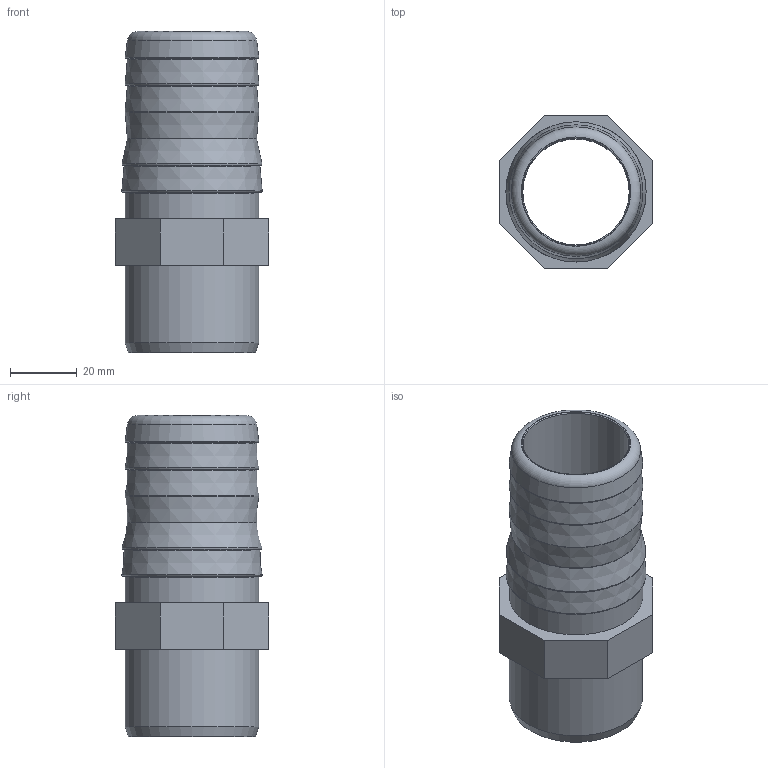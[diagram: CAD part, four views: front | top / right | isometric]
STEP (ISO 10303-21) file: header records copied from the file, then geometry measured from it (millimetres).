
FILE_DESCRIPTION(/* description */ (''),/* implementation_level */ '2;1');
FILE_NAME(/* name */ 'C:\Users\POLYPIPE\Desktop\DATASET INVENTOR\LIBRERIA EFFAST\RACCORDI 3DxWEB\RDR\3D_RDRPGD\3D_RDRPGD0400.stp',/* time_stamp */ '2018-01-19T15:16:32+01:00',/* author */ ('POLYPIPE'),/* organization */ (''),/* preprocessor_version */ 'ST-DEVELOPER v16.1',/* originating_system */ 'Autodesk Inventor 2016',/* authorisation */ '');
FILE_SCHEMA (('CONFIG_CONTROL_DESIGN'));
Length unit declared in the file: millimetre
Products named in the file (1): 3D_RDRPGD0400
Bounding box: 46 x 46 x 95.99 mm (x, y, z)
Volume: 50260.4 mm3; surface area: 23803.9 mm2
Topology: 1 solids, 1 shells, 39 faces, 79 edges, 48 vertices
Faces by surface type: plane 16, torus 13, cone 7, cylinder 3
Full cylindrical faces by diameter (mm): 31.8 x1, 40 x2
Entity records: 906 total; most frequent: DIRECTION 164, CARTESIAN_POINT 140, ORIENTED_EDGE 108, EDGE_LOOP 70, AXIS2_PLACEMENT_3D 70, EDGE_CURVE 54, VERTEX_POINT 46, FACE_OUTER_BOUND 39
